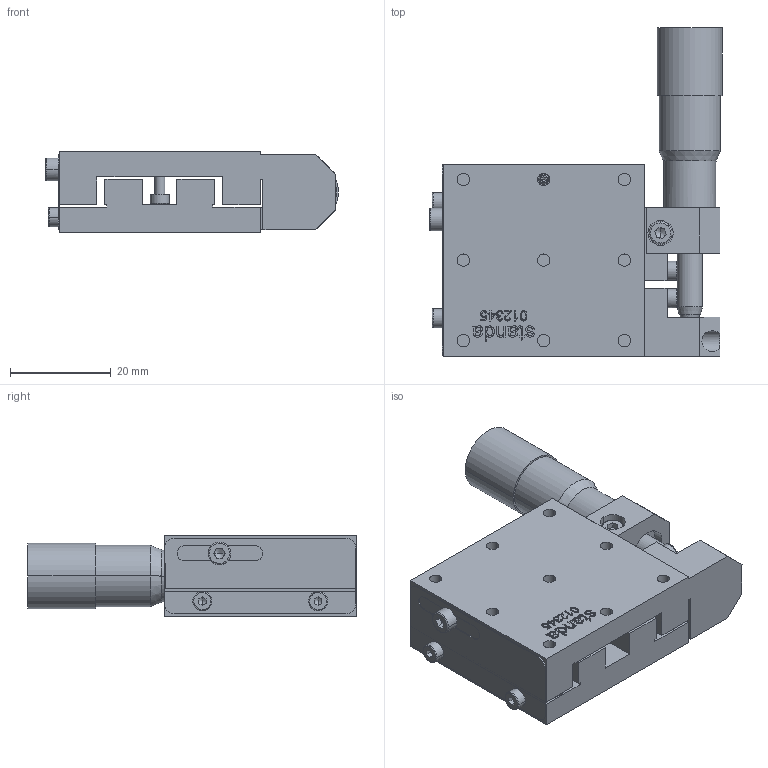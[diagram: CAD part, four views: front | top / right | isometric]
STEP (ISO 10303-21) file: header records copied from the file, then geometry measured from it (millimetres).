
FILE_DESCRIPTION (( 'STEP AP203' ), '1' );
FILE_NAME ('7T184-13.STEP', '2008-09-22T11:08:56', ( 'Darius' ), ( '' ), 'SwSTEP 2.0', 'SolidWorks 2003240', '' );
FILE_SCHEMA (( 'CONFIG_CONTROL_DESIGN' ));
Length unit declared in the file: millimetre
Products named in the file (1): 7T184-13
Bounding box: 58.2 x 65.32 x 16 mm (x, y, z)
Volume: 28006.9 mm3; surface area: 17035.9 mm2
Topology: 1 solids, 10 shells, 700 faces, 1843 edges, 1200 vertices
Faces by surface type: plane 315, bspline 204, cylinder 140, cone 41
Entity records: 25804 total; most frequent: CARTESIAN_POINT 9768, ORIENTED_EDGE 3638, DIRECTION 2664, EDGE_CURVE 1819, VERTEX_POINT 1200, VECTOR 1004, LINE 1004, AXIS2_PLACEMENT_3D 830
